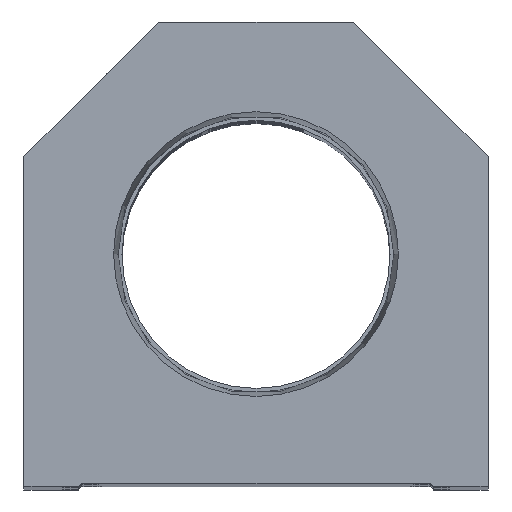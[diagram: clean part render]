
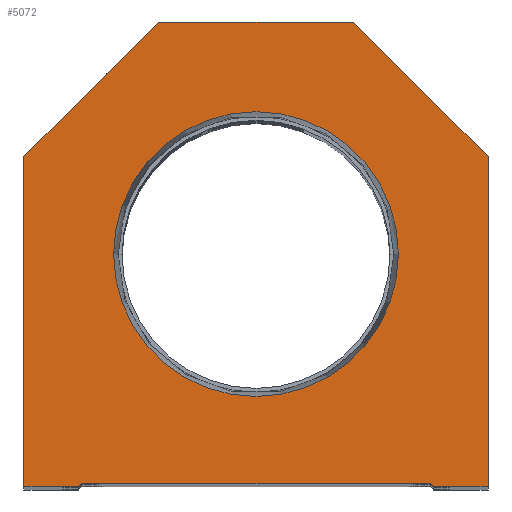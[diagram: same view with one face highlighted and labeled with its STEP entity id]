
A CAD part, top view. The second image highlights one B-rep face of the part: STEP entity #5072.
In plain terms, the highlighted planar face has unit normal (0, 0, 1).
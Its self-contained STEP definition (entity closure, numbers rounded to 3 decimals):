
#236 = LINE ( 'NONE', #15818, #8771 ) ;
#444 = CARTESIAN_POINT ( 'NONE',  ( 38.1, 54.1, 0. ) ) ;
#532 = CARTESIAN_POINT ( 'NONE',  ( 38.1, 54.1, 0. ) ) ;
#695 = ORIENTED_EDGE ( 'NONE', *, *, #12885, .F. ) ;
#804 = CARTESIAN_POINT ( 'NONE',  ( 14.55, 14.55, 0. ) ) ;
#863 = DIRECTION ( 'NONE',  ( 0., 0., 1. ) ) ;
#912 = LINE ( 'NONE', #7764, #11429 ) ;
#1238 = DIRECTION ( 'NONE',  ( 0.707, 0.707, 0. ) ) ;
#1612 = VERTEX_POINT ( 'NONE', #6683 ) ;
#2070 = CIRCLE ( 'NONE', #10714, 23.374 ) ;
#2523 = ORIENTED_EDGE ( 'NONE', *, *, #11425, .T. ) ;
#2736 = VERTEX_POINT ( 'NONE', #17594 ) ;
#2894 = CARTESIAN_POINT ( 'NONE',  ( 23.374, 38.1, 0. ) ) ;
#2936 = VECTOR ( 'NONE', #19009, 1000. ) ;
#3035 = CARTESIAN_POINT ( 'NONE',  ( -38.1, 54.1, 0. ) ) ;
#3351 = AXIS2_PLACEMENT_3D ( 'NONE', #5800, #863, #19966 ) ;
#3426 = EDGE_CURVE ( 'NONE', #19936, #2736, #9574, .T. ) ;
#3449 = DIRECTION ( 'NONE',  ( 1., 0., 0. ) ) ;
#3648 = ORIENTED_EDGE ( 'NONE', *, *, #9480, .T. ) ;
#3801 = DIRECTION ( 'NONE',  ( 1., 0., 0. ) ) ;
#3805 = VERTEX_POINT ( 'NONE', #12900 ) ;
#3967 = LINE ( 'NONE', #10845, #13285 ) ;
#4243 = CARTESIAN_POINT ( 'NONE',  ( -23.374, 38.1, 0. ) ) ;
#4299 = ORIENTED_EDGE ( 'NONE', *, *, #18936, .T. ) ;
#4374 = VECTOR ( 'NONE', #3449, 1000. ) ;
#4693 = VECTOR ( 'NONE', #7647, 1000. ) ;
#5056 = CARTESIAN_POINT ( 'NONE',  ( -38.1, 0., 0. ) ) ;
#5072 = ADVANCED_FACE ( 'NONE', ( #14439, #16476 ), #5847, .T. ) ;
#5113 = ORIENTED_EDGE ( 'NONE', *, *, #8619, .T. ) ;
#5800 = CARTESIAN_POINT ( 'NONE',  ( 0., 38.1, 0. ) ) ;
#5847 = PLANE ( 'NONE',  #21928 ) ;
#6683 = CARTESIAN_POINT ( 'NONE',  ( -38.1, 0., 0. ) ) ;
#6714 = EDGE_CURVE ( 'NONE', #17920, #19936, #912, .T. ) ;
#7505 = DIRECTION ( 'NONE',  ( -0.707, 0.707, 0. ) ) ;
#7647 = DIRECTION ( 'NONE',  ( 0.707, -0.707, 0. ) ) ;
#7752 = VERTEX_POINT ( 'NONE', #15137 ) ;
#7764 = CARTESIAN_POINT ( 'NONE',  ( 16., 76.2, 0. ) ) ;
#7890 = DIRECTION ( 'NONE',  ( -0.707, -0.707, 0. ) ) ;
#8140 = VECTOR ( 'NONE', #7890, 1000. ) ;
#8475 = ORIENTED_EDGE ( 'NONE', *, *, #18291, .F. ) ;
#8619 = EDGE_CURVE ( 'NONE', #2736, #1612, #11967, .T. ) ;
#8624 = VERTEX_POINT ( 'NONE', #444 ) ;
#8771 = VECTOR ( 'NONE', #13782, 1000. ) ;
#8817 = EDGE_CURVE ( 'NONE', #21399, #9244, #18426, .T. ) ;
#8966 = EDGE_CURVE ( 'NONE', #8624, #17920, #14300, .T. ) ;
#9244 = VERTEX_POINT ( 'NONE', #15748 ) ;
#9480 = EDGE_CURVE ( 'NONE', #15188, #3805, #12630, .T. ) ;
#9574 = LINE ( 'NONE', #3035, #8140 ) ;
#9660 = CARTESIAN_POINT ( 'NONE',  ( -16., 76.2, 0. ) ) ;
#9797 = VECTOR ( 'NONE', #16915, 1000. ) ;
#10502 = CARTESIAN_POINT ( 'NONE',  ( 28.6, 0.5, 0. ) ) ;
#10714 = AXIS2_PLACEMENT_3D ( 'NONE', #16022, #14547, #3801 ) ;
#10845 = CARTESIAN_POINT ( 'NONE',  ( 38.1, 0., 0. ) ) ;
#11068 = DIRECTION ( 'NONE',  ( 0., 1., 0. ) ) ;
#11269 = VERTEX_POINT ( 'NONE', #2894 ) ;
#11311 = EDGE_CURVE ( 'NONE', #3805, #7752, #16573, .T. ) ;
#11425 = EDGE_CURVE ( 'NONE', #9244, #15188, #18969, .T. ) ;
#11429 = VECTOR ( 'NONE', #12973, 1000. ) ;
#11452 = ORIENTED_EDGE ( 'NONE', *, *, #11311, .T. ) ;
#11967 = LINE ( 'NONE', #5056, #2936 ) ;
#12627 = CARTESIAN_POINT ( 'NONE',  ( 0., 0., 0. ) ) ;
#12630 = LINE ( 'NONE', #804, #4693 ) ;
#12851 = EDGE_LOOP ( 'NONE', ( #21750, #15918, #2523, #3648, #11452, #4299, #21134, #14211, #20328, #5113 ) ) ;
#12854 = DIRECTION ( 'NONE',  ( 1., 0., 0. ) ) ;
#12885 = EDGE_CURVE ( 'NONE', #13877, #11269, #13106, .T. ) ;
#12900 = CARTESIAN_POINT ( 'NONE',  ( 29.1, 0., 0. ) ) ;
#12973 = DIRECTION ( 'NONE',  ( -1., 0., 0. ) ) ;
#13068 = CARTESIAN_POINT ( 'NONE',  ( 28.6, 0., 0. ) ) ;
#13106 = CIRCLE ( 'NONE', #3351, 23.374 ) ;
#13285 = VECTOR ( 'NONE', #11068, 1000. ) ;
#13410 = EDGE_CURVE ( 'NONE', #1612, #21399, #236, .T. ) ;
#13782 = DIRECTION ( 'NONE',  ( 1., 0., 0. ) ) ;
#13877 = VERTEX_POINT ( 'NONE', #4243 ) ;
#14211 = ORIENTED_EDGE ( 'NONE', *, *, #6714, .T. ) ;
#14300 = LINE ( 'NONE', #532, #18514 ) ;
#14439 = FACE_BOUND ( 'NONE', #14854, .T. ) ;
#14547 = DIRECTION ( 'NONE',  ( 0., 0., 1. ) ) ;
#14854 = EDGE_LOOP ( 'NONE', ( #8475, #695 ) ) ;
#15137 = CARTESIAN_POINT ( 'NONE',  ( 38.1, 0., 0. ) ) ;
#15188 = VERTEX_POINT ( 'NONE', #10502 ) ;
#15315 = CARTESIAN_POINT ( 'NONE',  ( -28.6, 0.5, 0. ) ) ;
#15748 = CARTESIAN_POINT ( 'NONE',  ( -28.6, 0.5, 0. ) ) ;
#15818 = CARTESIAN_POINT ( 'NONE',  ( -28.6, 0., 0. ) ) ;
#15918 = ORIENTED_EDGE ( 'NONE', *, *, #8817, .T. ) ;
#16022 = CARTESIAN_POINT ( 'NONE',  ( 0., 38.1, 0. ) ) ;
#16476 = FACE_OUTER_BOUND ( 'NONE', #12851, .T. ) ;
#16573 = LINE ( 'NONE', #13068, #9797 ) ;
#16700 = CARTESIAN_POINT ( 'NONE',  ( -14.55, 14.55, 0. ) ) ;
#16915 = DIRECTION ( 'NONE',  ( 1., 0., 0. ) ) ;
#17489 = CARTESIAN_POINT ( 'NONE',  ( 16., 76.2, 0. ) ) ;
#17594 = CARTESIAN_POINT ( 'NONE',  ( -38.1, 54.1, 0. ) ) ;
#17920 = VERTEX_POINT ( 'NONE', #17489 ) ;
#18291 = EDGE_CURVE ( 'NONE', #11269, #13877, #2070, .T. ) ;
#18426 = LINE ( 'NONE', #16700, #22106 ) ;
#18514 = VECTOR ( 'NONE', #7505, 1000. ) ;
#18936 = EDGE_CURVE ( 'NONE', #7752, #8624, #3967, .T. ) ;
#18969 = LINE ( 'NONE', #15315, #4374 ) ;
#19009 = DIRECTION ( 'NONE',  ( 0., -1., 0. ) ) ;
#19936 = VERTEX_POINT ( 'NONE', #9660 ) ;
#19966 = DIRECTION ( 'NONE',  ( 1., 0., 0. ) ) ;
#20328 = ORIENTED_EDGE ( 'NONE', *, *, #3426, .T. ) ;
#21134 = ORIENTED_EDGE ( 'NONE', *, *, #8966, .T. ) ;
#21399 = VERTEX_POINT ( 'NONE', #22000 ) ;
#21479 = DIRECTION ( 'NONE',  ( 0., 0., 1. ) ) ;
#21750 = ORIENTED_EDGE ( 'NONE', *, *, #13410, .T. ) ;
#21928 = AXIS2_PLACEMENT_3D ( 'NONE', #12627, #21479, #12854 ) ;
#22000 = CARTESIAN_POINT ( 'NONE',  ( -29.1, 0., 0. ) ) ;
#22106 = VECTOR ( 'NONE', #1238, 1000. ) ;
